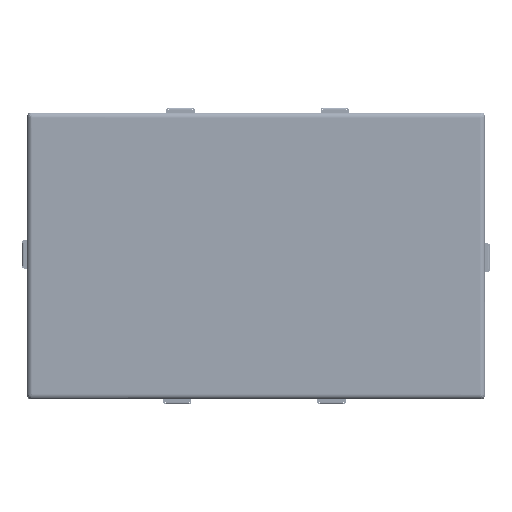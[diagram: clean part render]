
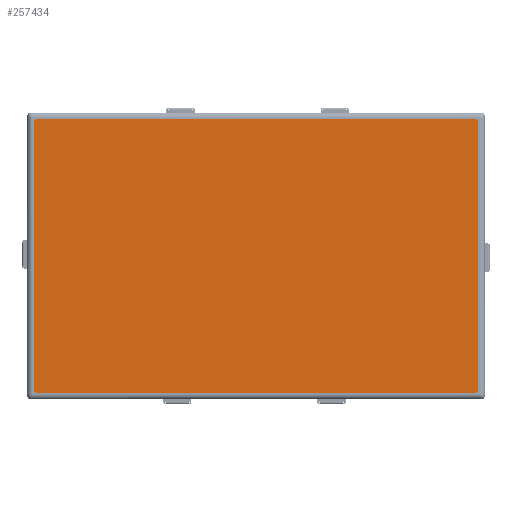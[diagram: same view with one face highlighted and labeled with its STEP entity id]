
A CAD part, top view. The second image highlights one B-rep face of the part: STEP entity #257434.
In plain terms, the highlighted planar face has unit normal (0, 0, 1).
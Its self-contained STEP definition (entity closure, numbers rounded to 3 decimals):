
#9004=FACE_OUTER_BOUND('',#22776,.T.);
#22776=EDGE_LOOP('',(#173366,#173367,#173368,#173369,#173370,#173371,#173372,
#173373));
#37255=CIRCLE('',#272054,2.);
#37256=CIRCLE('',#272055,2.);
#37257=CIRCLE('',#272056,2.);
#37258=CIRCLE('',#272057,2.);
#45327=LINE('',#371530,#75161);
#45331=LINE('',#371537,#75165);
#45334=LINE('',#371543,#75168);
#45336=LINE('',#371548,#75170);
#75161=VECTOR('',#297508,1000.);
#75165=VECTOR('',#297514,1000.);
#75168=VECTOR('',#297519,1000.);
#75170=VECTOR('',#297523,1000.);
#104963=VERTEX_POINT('',#371528);
#104964=VERTEX_POINT('',#371529);
#104965=VERTEX_POINT('',#371534);
#104966=VERTEX_POINT('',#371536);
#104967=VERTEX_POINT('',#371540);
#104968=VERTEX_POINT('',#371542);
#104969=VERTEX_POINT('',#371546);
#104970=VERTEX_POINT('',#371547);
#131433=EDGE_CURVE('',#104963,#104964,#45327,.T.);
#131437=EDGE_CURVE('',#104966,#104965,#45331,.T.);
#131440=EDGE_CURVE('',#104968,#104967,#45334,.T.);
#131442=EDGE_CURVE('',#104969,#104970,#45336,.T.);
#131445=EDGE_CURVE('',#104967,#104969,#37255,.T.);
#131446=EDGE_CURVE('',#104970,#104963,#37256,.T.);
#131447=EDGE_CURVE('',#104964,#104966,#37257,.T.);
#131448=EDGE_CURVE('',#104965,#104968,#37258,.T.);
#173366=ORIENTED_EDGE('',*,*,#131440,.T.);
#173367=ORIENTED_EDGE('',*,*,#131445,.T.);
#173368=ORIENTED_EDGE('',*,*,#131442,.T.);
#173369=ORIENTED_EDGE('',*,*,#131446,.T.);
#173370=ORIENTED_EDGE('',*,*,#131433,.T.);
#173371=ORIENTED_EDGE('',*,*,#131447,.T.);
#173372=ORIENTED_EDGE('',*,*,#131437,.T.);
#173373=ORIENTED_EDGE('',*,*,#131448,.T.);
#247460=PLANE('',#272053);
#257434=ADVANCED_FACE('',(#9004),#247460,.T.);
#272053=AXIS2_PLACEMENT_3D('',#371551,#297526,#297527);
#272054=AXIS2_PLACEMENT_3D('',#371552,#297528,#297529);
#272055=AXIS2_PLACEMENT_3D('',#371553,#297530,#297531);
#272056=AXIS2_PLACEMENT_3D('',#371554,#297532,#297533);
#272057=AXIS2_PLACEMENT_3D('',#371555,#297534,#297535);
#297508=DIRECTION('',(0.,1.,0.));
#297514=DIRECTION('',(-1.,0.,0.));
#297519=DIRECTION('',(0.,-1.,0.));
#297523=DIRECTION('',(1.,0.,0.));
#297526=DIRECTION('center_axis',(0.,0.,
1.));
#297527=DIRECTION('ref_axis',(-1.,0.,0.));
#297528=DIRECTION('center_axis',(0.,0.,
1.));
#297529=DIRECTION('ref_axis',(-1.,0.,0.));
#297530=DIRECTION('center_axis',(0.,0.,
1.));
#297531=DIRECTION('ref_axis',(-1.,0.,0.));
#297532=DIRECTION('center_axis',(0.,0.,
1.));
#297533=DIRECTION('ref_axis',(-1.,0.,0.));
#297534=DIRECTION('center_axis',(0.,0.,
1.));
#297535=DIRECTION('ref_axis',(-1.,0.,0.));
#371528=CARTESIAN_POINT('',(282.159,-63.048,-53.137));
#371529=CARTESIAN_POINT('',(282.159,173.952,-53.137));
#371530=CARTESIAN_POINT('',(282.159,-65.048,-53.137));
#371534=CARTESIAN_POINT('',(-107.841,175.952,-53.137));
#371536=CARTESIAN_POINT('',(280.159,175.952,-53.137));
#371537=CARTESIAN_POINT('',(282.159,175.952,-53.137));
#371540=CARTESIAN_POINT('',(-109.841,-63.048,-53.137));
#371542=CARTESIAN_POINT('',(-109.841,173.952,-53.137));
#371543=CARTESIAN_POINT('',(-109.841,-65.048,-53.137));
#371546=CARTESIAN_POINT('',(-107.841,-65.048,-53.137));
#371547=CARTESIAN_POINT('',(280.159,-65.048,-53.137));
#371548=CARTESIAN_POINT('',(282.159,-65.048,-53.137));
#371551=CARTESIAN_POINT('Origin',(86.159,55.452,-53.137));
#371552=CARTESIAN_POINT('Origin',(-107.841,-63.048,-53.137));
#371553=CARTESIAN_POINT('Origin',(280.159,-63.048,-53.137));
#371554=CARTESIAN_POINT('Origin',(280.159,173.952,-53.137));
#371555=CARTESIAN_POINT('Origin',(-107.841,173.952,-53.137));
